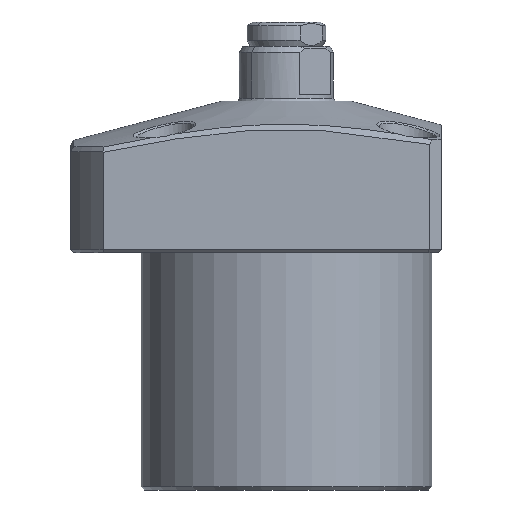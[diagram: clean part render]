
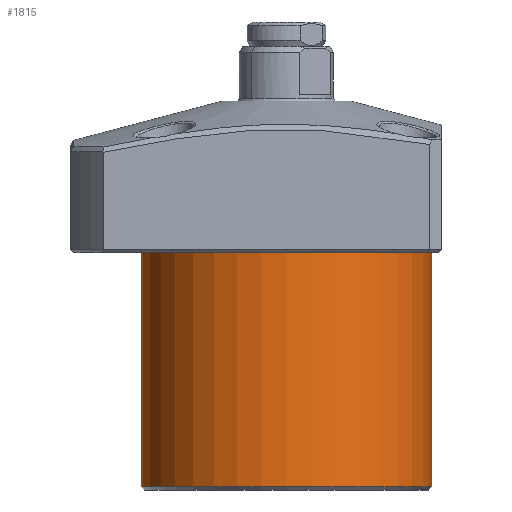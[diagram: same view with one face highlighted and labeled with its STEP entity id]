
A CAD part, front view. The second image highlights one B-rep face of the part: STEP entity #1815.
In plain terms, the highlighted cylindrical face has radius 23.9 mm (diameter 47.8 mm), a partial arc.
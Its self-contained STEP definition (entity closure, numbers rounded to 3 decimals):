
#126 = DIRECTION ( 'NONE',  ( 0., 0., -1. ) ) ;
#280 = CARTESIAN_POINT ( 'NONE',  ( 23.9, 0., 39. ) ) ;
#306 = FACE_OUTER_BOUND ( 'NONE', #5227, .T. ) ;
#331 = DIRECTION ( 'NONE',  ( 1., 0., 0. ) ) ;
#981 = DIRECTION ( 'NONE',  ( 0., 0., 1. ) ) ;
#1048 = CARTESIAN_POINT ( 'NONE',  ( -23.9, 0., 39. ) ) ;
#1576 = CARTESIAN_POINT ( 'NONE',  ( 23.9, 0., 39. ) ) ;
#1793 = LINE ( 'NONE', #280, #2342 ) ;
#1815 = ADVANCED_FACE ( 'NONE', ( #306 ), #2949, .T. ) ;
#1923 = VERTEX_POINT ( 'NONE', #6317 ) ;
#1993 = CARTESIAN_POINT ( 'NONE',  ( 0., 0., 0.5 ) ) ;
#2342 = VECTOR ( 'NONE', #126, 1000. ) ;
#2476 = ORIENTED_EDGE ( 'NONE', *, *, #5341, .T. ) ;
#2949 = CYLINDRICAL_SURFACE ( 'NONE', #4402, 23.9 ) ;
#3353 = ORIENTED_EDGE ( 'NONE', *, *, #7044, .F. ) ;
#3548 = CIRCLE ( 'NONE', #8120, 23.9 ) ;
#4057 = VERTEX_POINT ( 'NONE', #1048 ) ;
#4298 = EDGE_CURVE ( 'NONE', #4057, #1923, #5610, .T. ) ;
#4402 = AXIS2_PLACEMENT_3D ( 'NONE', #7810, #10490, #5332 ) ;
#4976 = EDGE_CURVE ( 'NONE', #4057, #6881, #6903, .T. ) ;
#5227 = EDGE_LOOP ( 'NONE', ( #3353, #8479, #6548, #2476 ) ) ;
#5332 = DIRECTION ( 'NONE',  ( -1., 0., 0. ) ) ;
#5341 = EDGE_CURVE ( 'NONE', #1923, #7967, #3548, .T. ) ;
#5610 = LINE ( 'NONE', #10716, #9092 ) ;
#6317 = CARTESIAN_POINT ( 'NONE',  ( -23.9, 0., 0.5 ) ) ;
#6548 = ORIENTED_EDGE ( 'NONE', *, *, #4298, .T. ) ;
#6881 = VERTEX_POINT ( 'NONE', #1576 ) ;
#6903 = CIRCLE ( 'NONE', #8656, 23.9 ) ;
#7044 = EDGE_CURVE ( 'NONE', #6881, #7967, #1793, .T. ) ;
#7316 = DIRECTION ( 'NONE',  ( 0., 0., -1. ) ) ;
#7744 = CARTESIAN_POINT ( 'NONE',  ( 23.9, 0., 0.5 ) ) ;
#7810 = CARTESIAN_POINT ( 'NONE',  ( 0., 0., 39. ) ) ;
#7967 = VERTEX_POINT ( 'NONE', #7744 ) ;
#8120 = AXIS2_PLACEMENT_3D ( 'NONE', #1993, #9749, #331 ) ;
#8479 = ORIENTED_EDGE ( 'NONE', *, *, #4976, .F. ) ;
#8520 = CARTESIAN_POINT ( 'NONE',  ( 0., 0., 39. ) ) ;
#8656 = AXIS2_PLACEMENT_3D ( 'NONE', #8520, #981, #9485 ) ;
#9092 = VECTOR ( 'NONE', #7316, 1000. ) ;
#9485 = DIRECTION ( 'NONE',  ( 1., 0., 0. ) ) ;
#9749 = DIRECTION ( 'NONE',  ( 0., 0., 1. ) ) ;
#10490 = DIRECTION ( 'NONE',  ( 0., 0., -1. ) ) ;
#10716 = CARTESIAN_POINT ( 'NONE',  ( -23.9, 0., 39. ) ) ;
